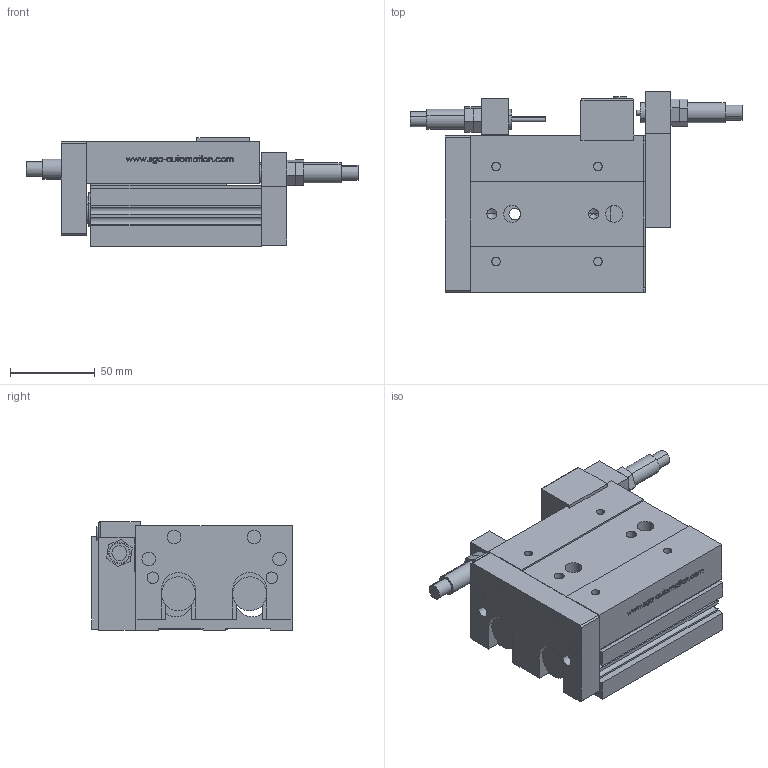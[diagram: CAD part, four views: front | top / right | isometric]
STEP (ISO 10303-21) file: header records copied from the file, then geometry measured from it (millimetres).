
FILE_DESCRIPTION (( 'STEP AP203' ), '1' );
FILE_NAME ('GDX25-40.STEP', '2013-02-28T10:25:33', ( 'Conseil Régional Haute-Normandie' ), ( 'Conseil Régional Haute-Normandie' ), 'SwSTEP 2.0', 'SolidWorks 2010', '' );
FILE_SCHEMA (( 'CONFIG_CONTROL_DESIGN' ));
Length unit declared in the file: millimetre
Products named in the file (18): Pièce4 GDX25-10_Default; Pièce5 GDX25-10_Default; Pièce3 GDX25-10_Default; Pièce4_Default; Pièce8 tige amortisseur GDX25-10_Default; GDX25-40; Pièce2_Default; Pièce1_Default; Pièce3_Default; Pièce1 GDX25-10_Default; Pièce10 GDX25-10_Default; Pièce11 GDX25-10_Default; Pièce6 boulon GDX25-10_Default; Pièce7 amortisseur GDX25-10_Default; Pièce5_Default; Pièce16 GDX 25-10_Default; Pièce17 GDX 25-10_Default; Pièce2 GDX25-10 Vis pièce1_Default
Assembly tree (35 placements, depth 2):
  GDX25-40
    Pièce7 amortisseur GDX25-10_Default  x2
    Pièce17 GDX 25-10_Default  x8
    Pièce2_Default
    Pièce10 GDX25-10_Default  x2
    Pièce4 GDX25-10_Default
    Pièce16 GDX 25-10_Default  x4
    Pièce8 tige amortisseur GDX25-10_Default  x2
    Pièce1 GDX25-10_Default
    Pièce11 GDX25-10_Default  x2
    Pièce4_Default
    Pièce2 GDX25-10 Vis pièce1_Default  x2
    Pièce5 GDX25-10_Default
    Pièce6 boulon GDX25-10_Default  x4
    Pièce5_Default
    Pièce3 GDX25-10_Default
    Pièce1_Default
    Pièce3_Default
Bounding box: 195.56 x 118 x 64 mm (x, y, z)
Volume: 618201.3 mm3; surface area: 167304.7 mm2
Topology: 37 solids, 37 shells, 832 faces, 2058 edges, 1326 vertices
Faces by surface type: plane 421, cylinder 212, bspline 133, cone 62, torus 4
Entity records: 33427 total; most frequent: CARTESIAN_POINT 15032, ORIENTED_EDGE 3454, DIRECTION 2913, EDGE_CURVE 1727, VERTEX_POINT 1138, VECTOR 1135, LINE 1135, AXIS2_PLACEMENT_3D 889
